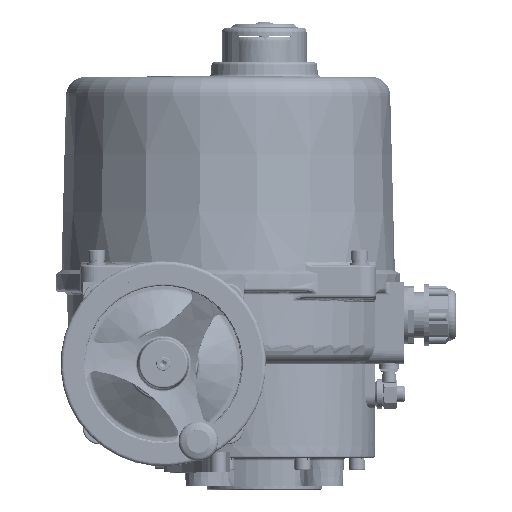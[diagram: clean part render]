
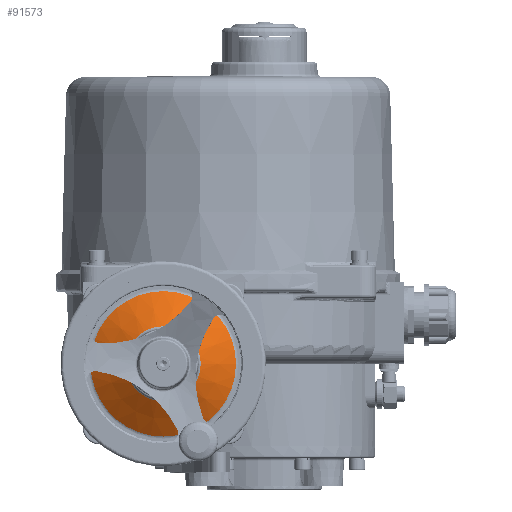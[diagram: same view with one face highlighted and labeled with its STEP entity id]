
A CAD part, top view. The second image highlights one B-rep face of the part: STEP entity #91573.
In plain terms, the highlighted conical face has half-angle 58.297 degrees and reference radius 33.541 mm.
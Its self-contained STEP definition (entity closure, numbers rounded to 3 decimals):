
#91573=ADVANCED_FACE('',(#134722,#134724),#134726,.T.);
#134722=FACE_BOUND('',#134723,.T.);
#134723=EDGE_LOOP('',(#160183,#160184));
#134724=FACE_BOUND('',#134725,.T.);
#134725=EDGE_LOOP('',(#160185,#160186));
#134726=CONICAL_SURFACE('',#134727,33.541,1.017);
#134727=AXIS2_PLACEMENT_3D('',#134728,#134729,#134730);
#134728=CARTESIAN_POINT('',(392.658,167.391,388.239));
#134729=DIRECTION('',(0.,0.,-1.));
#134730=DIRECTION('',(1.,0.,0.));
#160183=ORIENTED_EDGE('',*,*,#183480,.F.);
#160184=ORIENTED_EDGE('',*,*,#183479,.F.);
#160185=ORIENTED_EDGE('',*,*,#183780,.F.);
#160186=ORIENTED_EDGE('',*,*,#183781,.F.);
#183479=EDGE_CURVE('',#267632,#267633,#267634,.T.);
#183480=EDGE_CURVE('',#267633,#267632,#267635,.T.);
#183780=EDGE_CURVE('',#268119,#268120,#268121,.T.);
#183781=EDGE_CURVE('',#268120,#268119,#268122,.T.);
#267632=VERTEX_POINT('',#327447);
#267633=VERTEX_POINT('',#327448);
#267634=CIRCLE('',#327449,44.275);
#267635=CIRCLE('',#327453,44.275);
#268119=VERTEX_POINT('',#329097);
#268120=VERTEX_POINT('',#329098);
#268121=CIRCLE('',#329099,22.806);
#268122=CIRCLE('',#329103,22.806);
#327447=CARTESIAN_POINT('',(436.933,167.391,381.608));
#327448=CARTESIAN_POINT('',(348.382,167.391,381.608));
#327449=AXIS2_PLACEMENT_3D('',#327450,#327451,#327452);
#327450=CARTESIAN_POINT('',(392.658,167.391,381.608));
#327451=DIRECTION('',(0.,0.,-1.));
#327452=DIRECTION('',(1.,0.,0.));
#327453=AXIS2_PLACEMENT_3D('',#327454,#327455,#327456);
#327454=CARTESIAN_POINT('',(392.658,167.391,381.608));
#327455=DIRECTION('',(0.,0.,-1.));
#327456=DIRECTION('',(-1.,0.,0.));
#329097=CARTESIAN_POINT('',(369.852,167.391,394.869));
#329098=CARTESIAN_POINT('',(415.463,167.391,394.869));
#329099=AXIS2_PLACEMENT_3D('',#329100,#329101,#329102);
#329100=CARTESIAN_POINT('',(392.658,167.391,394.869));
#329101=DIRECTION('',(0.,0.,1.));
#329102=DIRECTION('',(-1.,0.,0.));
#329103=AXIS2_PLACEMENT_3D('',#329104,#329105,#329106);
#329104=CARTESIAN_POINT('',(392.658,167.391,394.869));
#329105=DIRECTION('',(0.,0.,1.));
#329106=DIRECTION('',(1.,0.,0.));
